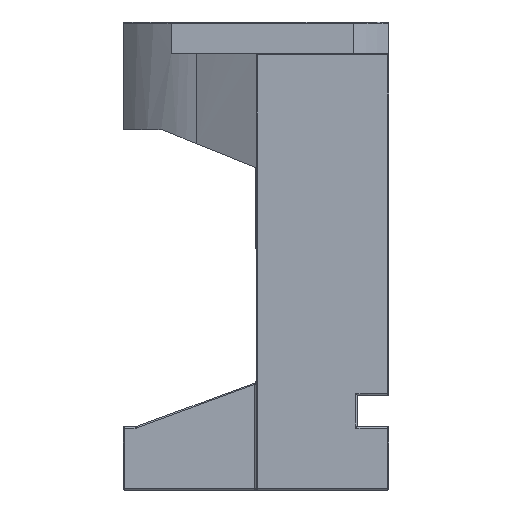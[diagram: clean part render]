
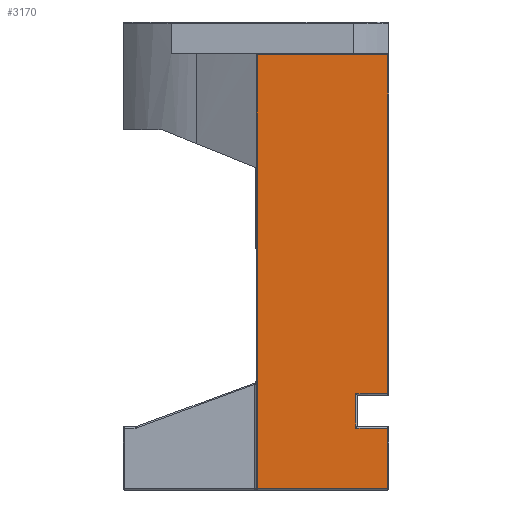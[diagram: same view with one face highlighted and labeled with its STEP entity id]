
A CAD part, left-side view. The second image highlights one B-rep face of the part: STEP entity #3170.
In plain terms, the highlighted planar face has unit normal (-1, 0, 0).
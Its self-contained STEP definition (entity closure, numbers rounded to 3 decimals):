
#9 = VERTEX_POINT ( 'NONE', #1452 ) ;
#41 = LINE ( 'NONE', #4010, #2209 ) ;
#231 = VECTOR ( 'NONE', #1236, 1000. ) ;
#253 = ORIENTED_EDGE ( 'NONE', *, *, #1649, .T. ) ;
#398 = ORIENTED_EDGE ( 'NONE', *, *, #818, .T. ) ;
#443 = DIRECTION ( 'NONE',  ( 0., 0., 1. ) ) ;
#456 = VECTOR ( 'NONE', #4753, 1000. ) ;
#542 = ORIENTED_EDGE ( 'NONE', *, *, #3150, .T. ) ;
#719 = CARTESIAN_POINT ( 'NONE',  ( -32.5, -14.8, 4.8 ) ) ;
#818 = EDGE_CURVE ( 'NONE', #5121, #2678, #2838, .T. ) ;
#819 = DIRECTION ( 'NONE',  ( 0., 1., 0. ) ) ;
#1088 = DIRECTION ( 'NONE',  ( 0., -1., 0. ) ) ;
#1198 = EDGE_LOOP ( 'NONE', ( #2071, #3130, #2984, #398, #253, #4478, #3127, #542 ) ) ;
#1236 = DIRECTION ( 'NONE',  ( 0., 0., 1. ) ) ;
#1253 = VERTEX_POINT ( 'NONE', #719 ) ;
#1308 = CARTESIAN_POINT ( 'NONE',  ( -32.5, -19.8, 4.8 ) ) ;
#1350 = CARTESIAN_POINT ( 'NONE',  ( -32.5, 0.8, -5. ) ) ;
#1362 = AXIS2_PLACEMENT_3D ( 'NONE', #2720, #1928, #1844 ) ;
#1452 = CARTESIAN_POINT ( 'NONE',  ( -32.5, -14.8, 10.2 ) ) ;
#1517 = VERTEX_POINT ( 'NONE', #1308 ) ;
#1649 = EDGE_CURVE ( 'NONE', #2678, #1904, #3043, .T. ) ;
#1731 = VECTOR ( 'NONE', #4731, 1000. ) ;
#1765 = DIRECTION ( 'NONE',  ( 0., 0., -1. ) ) ;
#1844 = DIRECTION ( 'NONE',  ( 0., 1., 0. ) ) ;
#1904 = VERTEX_POINT ( 'NONE', #2165 ) ;
#1905 = CARTESIAN_POINT ( 'NONE',  ( -32.5, -19.8, 10.2 ) ) ;
#1928 = DIRECTION ( 'NONE',  ( -1., 0., 0. ) ) ;
#1983 = VECTOR ( 'NONE', #1088, 1000. ) ;
#2038 = EDGE_CURVE ( 'NONE', #4908, #5195, #3182, .T. ) ;
#2050 = CARTESIAN_POINT ( 'NONE',  ( -32.5, -20., -4.8 ) ) ;
#2071 = ORIENTED_EDGE ( 'NONE', *, *, #5287, .T. ) ;
#2165 = CARTESIAN_POINT ( 'NONE',  ( -32.5, 0.8, 63.8 ) ) ;
#2209 = VECTOR ( 'NONE', #819, 1000. ) ;
#2339 = VECTOR ( 'NONE', #1765, 1000. ) ;
#2414 = PLANE ( 'NONE',  #1362 ) ;
#2438 = EDGE_CURVE ( 'NONE', #1904, #4908, #3539, .T. ) ;
#2584 = CARTESIAN_POINT ( 'NONE',  ( -32.5, -19.8, 64. ) ) ;
#2593 = LINE ( 'NONE', #3202, #4868 ) ;
#2678 = VERTEX_POINT ( 'NONE', #5440 ) ;
#2679 = VECTOR ( 'NONE', #2781, 1000. ) ;
#2720 = CARTESIAN_POINT ( 'NONE',  ( -32.5, -22., 64. ) ) ;
#2781 = DIRECTION ( 'NONE',  ( 0., 0., 1. ) ) ;
#2835 = CARTESIAN_POINT ( 'NONE',  ( -32.5, -19.8, 64. ) ) ;
#2838 = LINE ( 'NONE', #2584, #231 ) ;
#2930 = LINE ( 'NONE', #5130, #1731 ) ;
#2984 = ORIENTED_EDGE ( 'NONE', *, *, #4710, .T. ) ;
#3043 = LINE ( 'NONE', #5036, #456 ) ;
#3127 = ORIENTED_EDGE ( 'NONE', *, *, #2038, .T. ) ;
#3130 = ORIENTED_EDGE ( 'NONE', *, *, #3918, .T. ) ;
#3150 = EDGE_CURVE ( 'NONE', #5195, #1517, #4946, .T. ) ;
#3170 = ADVANCED_FACE ( 'NONE', ( #3600 ), #2414, .T. ) ;
#3182 = LINE ( 'NONE', #2050, #1983 ) ;
#3202 = CARTESIAN_POINT ( 'NONE',  ( -32.5, -14.8, 10. ) ) ;
#3482 = CARTESIAN_POINT ( 'NONE',  ( -32.5, -19.8, -4.8 ) ) ;
#3539 = LINE ( 'NONE', #1350, #2339 ) ;
#3600 = FACE_OUTER_BOUND ( 'NONE', #1198, .T. ) ;
#3918 = EDGE_CURVE ( 'NONE', #1253, #9, #2593, .T. ) ;
#4010 = CARTESIAN_POINT ( 'NONE',  ( -32.5, -22., 4.8 ) ) ;
#4478 = ORIENTED_EDGE ( 'NONE', *, *, #2438, .T. ) ;
#4710 = EDGE_CURVE ( 'NONE', #9, #5121, #2930, .T. ) ;
#4731 = DIRECTION ( 'NONE',  ( 0., -1., 0. ) ) ;
#4753 = DIRECTION ( 'NONE',  ( 0., 1., 0. ) ) ;
#4868 = VECTOR ( 'NONE', #443, 1000. ) ;
#4896 = CARTESIAN_POINT ( 'NONE',  ( -32.5, 0.8, -4.8 ) ) ;
#4908 = VERTEX_POINT ( 'NONE', #4896 ) ;
#4946 = LINE ( 'NONE', #2835, #2679 ) ;
#5036 = CARTESIAN_POINT ( 'NONE',  ( -32.5, -22., 63.8 ) ) ;
#5121 = VERTEX_POINT ( 'NONE', #1905 ) ;
#5130 = CARTESIAN_POINT ( 'NONE',  ( -32.5, -20., 10.2 ) ) ;
#5195 = VERTEX_POINT ( 'NONE', #3482 ) ;
#5287 = EDGE_CURVE ( 'NONE', #1517, #1253, #41, .T. ) ;
#5440 = CARTESIAN_POINT ( 'NONE',  ( -32.5, -19.8, 63.8 ) ) ;
